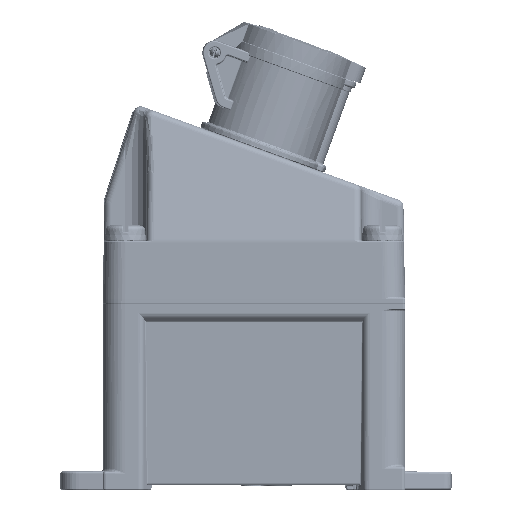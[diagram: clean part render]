
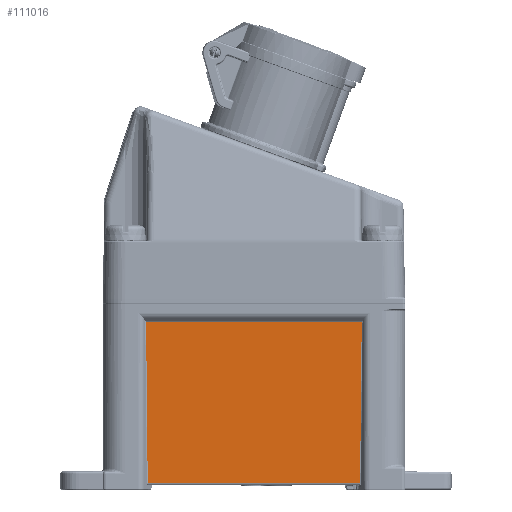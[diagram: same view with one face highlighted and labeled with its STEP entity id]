
A CAD part, left-side view. The second image highlights one B-rep face of the part: STEP entity #111016.
In plain terms, the highlighted planar face has unit normal (-1, 0, -0.018).
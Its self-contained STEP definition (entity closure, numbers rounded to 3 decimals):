
#2636=CARTESIAN_POINT('',(3.779,20.212,2.983));
#2637=CARTESIAN_POINT('',(3.779,20.204,2.983));
#2638=CARTESIAN_POINT('',(3.779,20.189,2.982));
#2639=CARTESIAN_POINT('',(3.779,20.167,2.982));
#2640=CARTESIAN_POINT('',(3.779,20.153,2.982));
#2641=CARTESIAN_POINT('',(3.779,20.145,2.981));
#2655=DIRECTION('',(0.,-1.,0.));
#2656=VECTOR('',#2655,90.443);
#2657=CARTESIAN_POINT('',(3.779,110.655,2.983));
#2658=LINE('36077',#2657,#2656);
#20088=CARTESIAN_POINT('',(3.779,20.145,2.981));
#20089=CARTESIAN_POINT('',(3.779,20.05,2.978));
#20090=CARTESIAN_POINT('',(3.779,19.863,2.959));
#20091=CARTESIAN_POINT('',(3.78,19.592,2.89));
#20092=CARTESIAN_POINT('',(3.782,19.427,2.822));
#20093=CARTESIAN_POINT('',(3.782,19.347,2.782));
#20095=CARTESIAN_POINT('',(3.782,19.347,2.782));
#20103=DIRECTION('',(-0.017,0.01,1.));
#20104=VECTOR('',#20103,69.263);
#20105=CARTESIAN_POINT('',(3.779,110.655,2.983));
#20106=LINE('36088',#20105,#20104);
#20107=DIRECTION('',(0.017,0.01,-1.));
#20108=VECTOR('',#20107,69.464);
#20109=CARTESIAN_POINT('',(2.57,18.647,72.232));
#20110=LINE('39067',#20109,#20108);
#20111=DIRECTION('',(0.,1.,0.));
#20112=VECTOR('',#20111,92.705);
#20113=CARTESIAN_POINT('',(2.57,18.647,72.232));
#20114=LINE('39066',#20113,#20112);
#20115=CARTESIAN_POINT('',(2.57,111.353,72.232));
#59148=CARTESIAN_POINT('',(3.779,20.212,2.983));
#59149=VERTEX_POINT('',#59148);
#59150=VERTEX_POINT('',#2641);
#59152=CARTESIAN_POINT('',(3.779,110.655,2.983));
#59153=VERTEX_POINT('',#59152);
#59167=VERTEX_POINT('',#20115);
#62187=VERTEX_POINT('',#20095);
#62188=CARTESIAN_POINT('',(2.57,18.647,72.232));
#62189=VERTEX_POINT('',#62188);
#111001=CARTESIAN_POINT('',(2.566,113.125,72.434));
#111002=DIRECTION('',(1.,0.,0.017));
#111003=DIRECTION('',(0.017,0.,-1.));
#111004=AXIS2_PLACEMENT_3D('',#111001,#111002,#111003);
#111005=PLANE('47256',#111004);
#111006=ORIENTED_EDGE('39065',*,*,#110988,.F.);
#111007=ORIENTED_EDGE('36073',*,*,#75815,.F.);
#111008=ORIENTED_EDGE('36077',*,*,#75839,.F.);
#111009=ORIENTED_EDGE('36088',*,*,#75895,.T.);
#111011=ORIENTED_EDGE('39066',*,*,#111010,.F.);
#111013=ORIENTED_EDGE('39067',*,*,#111012,.T.);
#111014=EDGE_LOOP('47256',(#111006,#111007,#111008,#111009,#111011,#111013));
#111015=FACE_OUTER_BOUND('47256',#111014,.F.);
#2642=B_SPLINE_CURVE_WITH_KNOTS('36073',3,(#2636,#2637,#2638,#2639,#2640,#2641),
.UNSPECIFIED.,.F.,.F.,(4,1,1,4),(0.,0.333,0.667,1.),
.UNSPECIFIED.);
#20094=B_SPLINE_CURVE_WITH_KNOTS('39065',3,(#20088,#20089,#20090,#20091,#20092,
#20093),.UNSPECIFIED.,.F.,.F.,(4,1,1,4),(0.,0.333,
0.667,1.),.UNSPECIFIED.);
#75815=EDGE_CURVE('36073',#59149,#59150,#2642,.T.);
#75839=EDGE_CURVE('36077',#59153,#59149,#2658,.T.);
#75895=EDGE_CURVE('36088',#59153,#59167,#20106,.T.);
#110988=EDGE_CURVE('39065',#59150,#62187,#20094,.T.);
#111010=EDGE_CURVE('39066',#62189,#59167,#20114,.T.);
#111012=EDGE_CURVE('39067',#62189,#62187,#20110,.T.);
#111016=ADVANCED_FACE('47256',(#111015),#111005,.F.);
